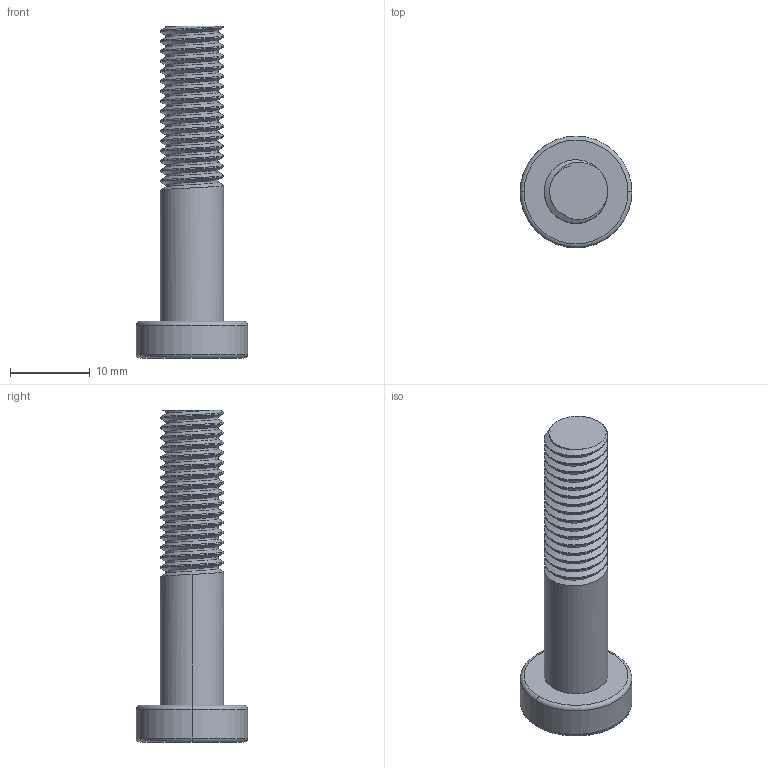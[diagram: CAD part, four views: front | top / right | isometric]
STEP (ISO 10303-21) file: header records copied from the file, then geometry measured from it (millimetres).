
FILE_DESCRIPTION (( 'STEP AP214' ), '1' );
FILE_NAME ('Gewindestange.STEP', '2026-02-05T09:57:37', ( '' ), ( '' ), 'SwSTEP 2.0', 'SolidWorks 2025', '' );
FILE_SCHEMA (( 'AUTOMOTIVE_DESIGN' ));
Length unit declared in the file: metre
Products named in the file (1): Gewindestange
Bounding box: 14 x 14 x 41.6 mm (x, y, z)
Volume: 1993.7 mm3; surface area: 1977.4 mm2
Topology: 1 solids, 1 shells, 50 faces, 134 edges, 88 vertices
Faces by surface type: cylinder 38, plane 5, torus 4, bspline 3
Entity records: 4235 total; most frequent: CARTESIAN_POINT 3175, ORIENTED_EDGE 268, DIRECTION 174, EDGE_CURVE 134, VERTEX_POINT 88, AXIS2_PLACEMENT_3D 68, EDGE_LOOP 52, FACE_OUTER_BOUND 50
